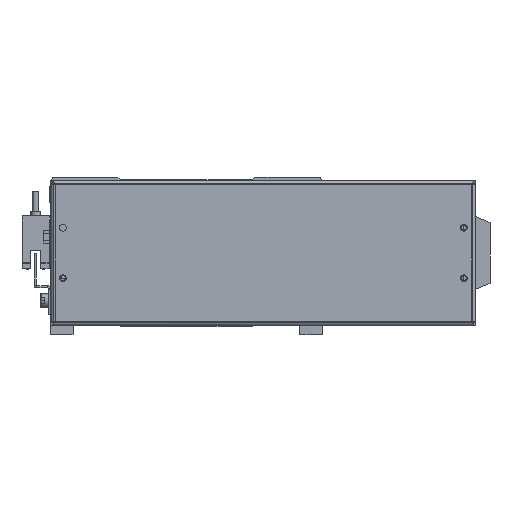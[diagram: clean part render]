
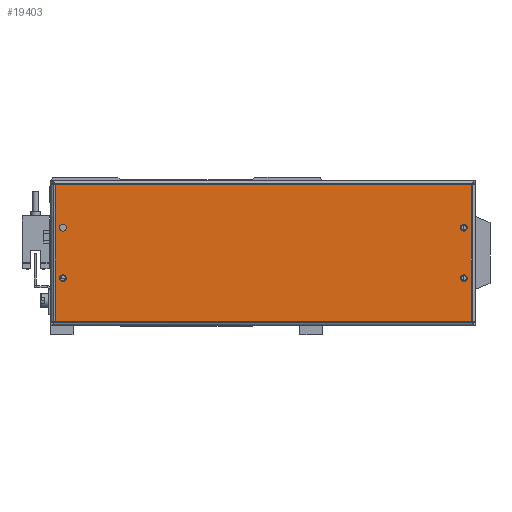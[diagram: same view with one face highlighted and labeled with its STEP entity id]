
A CAD part, front view. The second image highlights one B-rep face of the part: STEP entity #19403.
In plain terms, the highlighted planar face has unit normal (0, -1, 0) as drawn and (0, 1, 0) by its records, which use the part's own axes.
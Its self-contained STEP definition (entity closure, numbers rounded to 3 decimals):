
#357 = ORIENTED_EDGE ( 'NONE', *, *, #23313, .T. ) ;
#657 = AXIS2_PLACEMENT_3D ( 'NONE', #31138, #49093, #35694 ) ;
#1238 = DIRECTION ( 'NONE',  ( 0., 0., 1. ) ) ;
#1356 = ORIENTED_EDGE ( 'NONE', *, *, #45602, .F. ) ;
#2034 = VERTEX_POINT ( 'NONE', #2231 ) ;
#2231 = CARTESIAN_POINT ( 'NONE',  ( -99., 0., 14.2 ) ) ;
#2365 = DIRECTION ( 'NONE',  ( 0., 0., 1. ) ) ;
#2394 = CARTESIAN_POINT ( 'NONE',  ( 99., 0., -10.8 ) ) ;
#2492 = DIRECTION ( 'NONE',  ( 0., 0., 1. ) ) ;
#2561 = EDGE_CURVE ( 'NONE', #21318, #51246, #59434, .T. ) ;
#3473 = DIRECTION ( 'NONE',  ( 0., 0., -1. ) ) ;
#3929 = VERTEX_POINT ( 'NONE', #60076 ) ;
#4977 = CARTESIAN_POINT ( 'NONE',  ( -99., 0., -10.8 ) ) ;
#5558 = EDGE_CURVE ( 'NONE', #57135, #2034, #11772, .T. ) ;
#7065 = VECTOR ( 'NONE', #35656, 1000. ) ;
#7102 = EDGE_CURVE ( 'NONE', #51246, #21318, #50721, .T. ) ;
#7151 = VERTEX_POINT ( 'NONE', #58549 ) ;
#7248 = DIRECTION ( 'NONE',  ( 0., 1., 0. ) ) ;
#7411 = VERTEX_POINT ( 'NONE', #14601 ) ;
#7741 = CARTESIAN_POINT ( 'NONE',  ( 102.793, 0., -33.763 ) ) ;
#7785 = ORIENTED_EDGE ( 'NONE', *, *, #21709, .F. ) ;
#8686 = VERTEX_POINT ( 'NONE', #51790 ) ;
#8849 = ORIENTED_EDGE ( 'NONE', *, *, #7102, .F. ) ;
#9117 = ORIENTED_EDGE ( 'NONE', *, *, #20108, .F. ) ;
#10165 = FACE_BOUND ( 'NONE', #53303, .T. ) ;
#10648 = CARTESIAN_POINT ( 'NONE',  ( 99., 0., 14.2 ) ) ;
#10697 = AXIS2_PLACEMENT_3D ( 'NONE', #54410, #7248, #2492 ) ;
#10710 = ORIENTED_EDGE ( 'NONE', *, *, #20824, .F. ) ;
#11081 = DIRECTION ( 'NONE',  ( 0., 1., 0. ) ) ;
#11119 = AXIS2_PLACEMENT_3D ( 'NONE', #37687, #52129, #13863 ) ;
#11636 = ORIENTED_EDGE ( 'NONE', *, *, #2561, .F. ) ;
#11772 = CIRCLE ( 'NONE', #657, 1.7 ) ;
#12007 = EDGE_LOOP ( 'NONE', ( #7785, #49999 ) ) ;
#12264 = CIRCLE ( 'NONE', #11119, 1.7 ) ;
#13029 = AXIS2_PLACEMENT_3D ( 'NONE', #41399, #55453, #61066 ) ;
#13126 = CARTESIAN_POINT ( 'NONE',  ( -102.763, 0., -33.763 ) ) ;
#13863 = DIRECTION ( 'NONE',  ( 0., 0., 1. ) ) ;
#14315 = ORIENTED_EDGE ( 'NONE', *, *, #58872, .T. ) ;
#14456 = EDGE_CURVE ( 'NONE', #7151, #31451, #26294, .T. ) ;
#14583 = AXIS2_PLACEMENT_3D ( 'NONE', #58748, #29977, #1238 ) ;
#14601 = CARTESIAN_POINT ( 'NONE',  ( 102.763, 0., 33.763 ) ) ;
#14752 = AXIS2_PLACEMENT_3D ( 'NONE', #54279, #25928, #2365 ) ;
#14831 = ORIENTED_EDGE ( 'NONE', *, *, #14456, .T. ) ;
#18740 = ORIENTED_EDGE ( 'NONE', *, *, #5558, .F. ) ;
#19403 = ADVANCED_FACE ( 'NONE', ( #10165, #46404, #39077, #20507, #40582 ), #60859, .T. ) ;
#19508 = AXIS2_PLACEMENT_3D ( 'NONE', #39664, #11081, #44404 ) ;
#19785 = VECTOR ( 'NONE', #3473, 1000. ) ;
#19949 = VECTOR ( 'NONE', #27160, 1000. ) ;
#20108 = EDGE_CURVE ( 'NONE', #59964, #27793, #12264, .T. ) ;
#20507 = FACE_BOUND ( 'NONE', #43290, .T. ) ;
#20824 = EDGE_CURVE ( 'NONE', #27793, #59964, #46266, .T. ) ;
#21200 = ORIENTED_EDGE ( 'NONE', *, *, #49183, .T. ) ;
#21318 = VERTEX_POINT ( 'NONE', #4977 ) ;
#21709 = EDGE_CURVE ( 'NONE', #41933, #3929, #26212, .T. ) ;
#23313 = EDGE_CURVE ( 'NONE', #31451, #8686, #58503, .T. ) ;
#24169 = EDGE_CURVE ( 'NONE', #3929, #41933, #31702, .T. ) ;
#25426 = AXIS2_PLACEMENT_3D ( 'NONE', #57918, #57521, #58307 ) ;
#25928 = DIRECTION ( 'NONE',  ( 0., 1., 0. ) ) ;
#26212 = CIRCLE ( 'NONE', #25426, 1.7 ) ;
#26294 = LINE ( 'NONE', #7741, #7065 ) ;
#26684 = DIRECTION ( 'NONE',  ( 1., 0., 0. ) ) ;
#27160 = DIRECTION ( 'NONE',  ( 0., 0., 1. ) ) ;
#27274 = VECTOR ( 'NONE', #26684, 1000. ) ;
#27793 = VERTEX_POINT ( 'NONE', #34395 ) ;
#29977 = DIRECTION ( 'NONE',  ( 0., 1., 0. ) ) ;
#31138 = CARTESIAN_POINT ( 'NONE',  ( -99., 0., 12.5 ) ) ;
#31451 = VERTEX_POINT ( 'NONE', #13126 ) ;
#31702 = CIRCLE ( 'NONE', #19508, 1.7 ) ;
#32038 = EDGE_LOOP ( 'NONE', ( #1356, #18740 ) ) ;
#32349 = DIRECTION ( 'NONE',  ( 0., 0., 1. ) ) ;
#33371 = AXIS2_PLACEMENT_3D ( 'NONE', #57023, #60745, #32349 ) ;
#34395 = CARTESIAN_POINT ( 'NONE',  ( 99., 0., 10.8 ) ) ;
#34566 = CIRCLE ( 'NONE', #10697, 1.7 ) ;
#35656 = DIRECTION ( 'NONE',  ( -1., 0., 0. ) ) ;
#35694 = DIRECTION ( 'NONE',  ( 0., 0., 1. ) ) ;
#35764 = CARTESIAN_POINT ( 'NONE',  ( -99., 0., 10.8 ) ) ;
#36828 = LINE ( 'NONE', #56030, #19785 ) ;
#37687 = CARTESIAN_POINT ( 'NONE',  ( 99., 0., 12.5 ) ) ;
#39077 = FACE_BOUND ( 'NONE', #12007, .T. ) ;
#39223 = LINE ( 'NONE', #59412, #27274 ) ;
#39664 = CARTESIAN_POINT ( 'NONE',  ( 99., 0., -12.5 ) ) ;
#40582 = FACE_OUTER_BOUND ( 'NONE', #56939, .T. ) ;
#41399 = CARTESIAN_POINT ( 'NONE',  ( 0., 0., 0. ) ) ;
#41933 = VERTEX_POINT ( 'NONE', #2394 ) ;
#43290 = EDGE_LOOP ( 'NONE', ( #9117, #10710 ) ) ;
#44404 = DIRECTION ( 'NONE',  ( 0., 0., 1. ) ) ;
#45602 = EDGE_CURVE ( 'NONE', #2034, #57135, #34566, .T. ) ;
#46266 = CIRCLE ( 'NONE', #33371, 1.7 ) ;
#46404 = FACE_BOUND ( 'NONE', #32038, .T. ) ;
#49093 = DIRECTION ( 'NONE',  ( 0., 1., 0. ) ) ;
#49183 = EDGE_CURVE ( 'NONE', #8686, #7411, #39223, .T. ) ;
#49999 = ORIENTED_EDGE ( 'NONE', *, *, #24169, .F. ) ;
#50721 = CIRCLE ( 'NONE', #14583, 1.7 ) ;
#51246 = VERTEX_POINT ( 'NONE', #58129 ) ;
#51790 = CARTESIAN_POINT ( 'NONE',  ( -102.763, 0., 33.763 ) ) ;
#52129 = DIRECTION ( 'NONE',  ( 0., 1., 0. ) ) ;
#53303 = EDGE_LOOP ( 'NONE', ( #11636, #8849 ) ) ;
#54279 = CARTESIAN_POINT ( 'NONE',  ( -99., 0., -12.5 ) ) ;
#54410 = CARTESIAN_POINT ( 'NONE',  ( -99., 0., 12.5 ) ) ;
#55453 = DIRECTION ( 'NONE',  ( 0., 1., 0. ) ) ;
#55924 = CARTESIAN_POINT ( 'NONE',  ( -102.763, 0., -33.793 ) ) ;
#56030 = CARTESIAN_POINT ( 'NONE',  ( 102.763, 0., 33.793 ) ) ;
#56939 = EDGE_LOOP ( 'NONE', ( #14831, #357, #21200, #14315 ) ) ;
#57023 = CARTESIAN_POINT ( 'NONE',  ( 99., 0., 12.5 ) ) ;
#57135 = VERTEX_POINT ( 'NONE', #35764 ) ;
#57521 = DIRECTION ( 'NONE',  ( 0., 1., 0. ) ) ;
#57918 = CARTESIAN_POINT ( 'NONE',  ( 99., 0., -12.5 ) ) ;
#58129 = CARTESIAN_POINT ( 'NONE',  ( -99., 0., -14.2 ) ) ;
#58307 = DIRECTION ( 'NONE',  ( 0., 0., 1. ) ) ;
#58503 = LINE ( 'NONE', #55924, #19949 ) ;
#58549 = CARTESIAN_POINT ( 'NONE',  ( 102.763, 0., -33.763 ) ) ;
#58748 = CARTESIAN_POINT ( 'NONE',  ( -99., 0., -12.5 ) ) ;
#58872 = EDGE_CURVE ( 'NONE', #7411, #7151, #36828, .T. ) ;
#59412 = CARTESIAN_POINT ( 'NONE',  ( -102.793, 0., 33.763 ) ) ;
#59434 = CIRCLE ( 'NONE', #14752, 1.7 ) ;
#59964 = VERTEX_POINT ( 'NONE', #10648 ) ;
#60076 = CARTESIAN_POINT ( 'NONE',  ( 99., 0., -14.2 ) ) ;
#60745 = DIRECTION ( 'NONE',  ( 0., 1., 0. ) ) ;
#60859 = PLANE ( 'NONE',  #13029 ) ;
#61066 = DIRECTION ( 'NONE',  ( 0., 0., 1. ) ) ;
